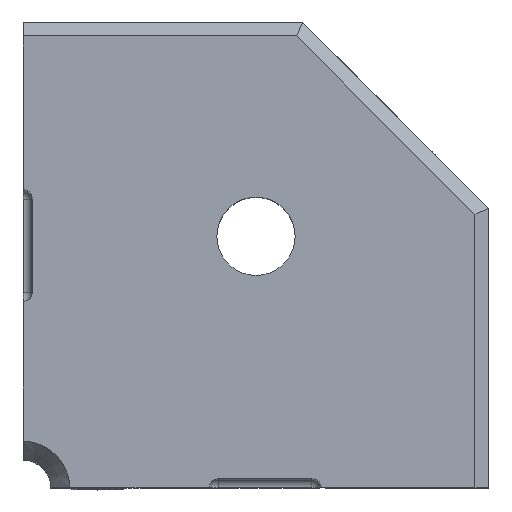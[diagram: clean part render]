
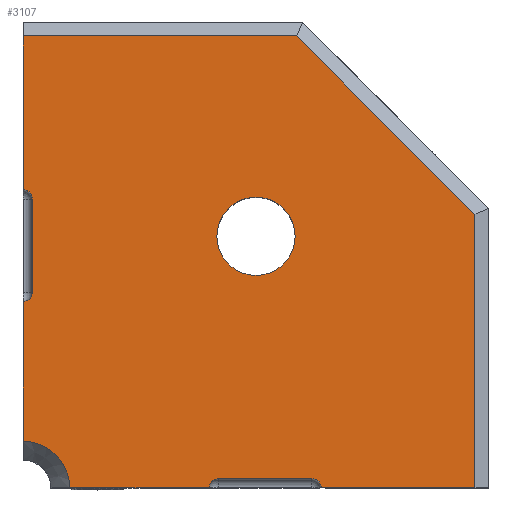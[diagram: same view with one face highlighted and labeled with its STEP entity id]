
A CAD part, top view. The second image highlights one B-rep face of the part: STEP entity #3107.
In plain terms, the highlighted planar face has unit normal (0, 0, 1).
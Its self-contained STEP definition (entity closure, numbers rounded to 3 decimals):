
#89=FACE_BOUND('',#531,.T.);
#125=PLANE('',#3371);
#183=CIRCLE('',#3362,1.);
#184=CIRCLE('',#3365,1.);
#185=CIRCLE('',#3367,1.);
#186=CIRCLE('',#3370,1.);
#187=CIRCLE('',#3372,5.);
#188=CIRCLE('',#3373,4.2);
#349=FACE_OUTER_BOUND('',#530,.T.);
#530=EDGE_LOOP('',(#2516,#2517,#2518,#2519,#2520,#2521,#2522,#2523,#2524,
#2525,#2526,#2527,#2528,#2529));
#531=EDGE_LOOP('',(#2530));
#739=LINE('',#7444,#933);
#744=LINE('',#7458,#938);
#747=LINE('',#7466,#941);
#748=LINE('',#7469,#942);
#749=LINE('',#7471,#943);
#750=LINE('',#7473,#944);
#751=LINE('',#7475,#945);
#752=LINE('',#7477,#946);
#753=LINE('',#7478,#947);
#933=VECTOR('',#3850,10.);
#938=VECTOR('',#3865,10.);
#941=VECTOR('',#3874,10.);
#942=VECTOR('',#3877,10.);
#943=VECTOR('',#3878,10.);
#944=VECTOR('',#3879,10.);
#945=VECTOR('',#3880,10.);
#946=VECTOR('',#3881,10.);
#947=VECTOR('',#3882,10.);
#1461=VERTEX_POINT('',#7437);
#1462=VERTEX_POINT('',#7439);
#1463=VERTEX_POINT('',#7443);
#1464=VERTEX_POINT('',#7447);
#1465=VERTEX_POINT('',#7451);
#1466=VERTEX_POINT('',#7453);
#1467=VERTEX_POINT('',#7457);
#1468=VERTEX_POINT('',#7461);
#1469=VERTEX_POINT('',#7465);
#1470=VERTEX_POINT('',#7467);
#1471=VERTEX_POINT('',#7470);
#1472=VERTEX_POINT('',#7472);
#1473=VERTEX_POINT('',#7474);
#1474=VERTEX_POINT('',#7476);
#1475=VERTEX_POINT('',#7479);
#1857=EDGE_CURVE('',#1462,#1461,#183,.T.);
#1859=EDGE_CURVE('',#1463,#1462,#739,.T.);
#1861=EDGE_CURVE('',#1464,#1463,#184,.T.);
#1864=EDGE_CURVE('',#1466,#1465,#185,.T.);
#1866=EDGE_CURVE('',#1467,#1466,#744,.T.);
#1868=EDGE_CURVE('',#1468,#1467,#186,.T.);
#1870=EDGE_CURVE('',#1461,#1469,#747,.T.);
#1871=EDGE_CURVE('',#1470,#1469,#187,.T.);
#1872=EDGE_CURVE('',#1470,#1468,#748,.T.);
#1873=EDGE_CURVE('',#1465,#1471,#749,.T.);
#1874=EDGE_CURVE('',#1472,#1471,#750,.T.);
#1875=EDGE_CURVE('',#1473,#1472,#751,.T.);
#1876=EDGE_CURVE('',#1474,#1473,#752,.T.);
#1877=EDGE_CURVE('',#1474,#1464,#753,.T.);
#1878=EDGE_CURVE('',#1475,#1475,#188,.T.);
#2516=ORIENTED_EDGE('',*,*,#1861,.T.);
#2517=ORIENTED_EDGE('',*,*,#1859,.T.);
#2518=ORIENTED_EDGE('',*,*,#1857,.T.);
#2519=ORIENTED_EDGE('',*,*,#1870,.T.);
#2520=ORIENTED_EDGE('',*,*,#1871,.F.);
#2521=ORIENTED_EDGE('',*,*,#1872,.T.);
#2522=ORIENTED_EDGE('',*,*,#1868,.T.);
#2523=ORIENTED_EDGE('',*,*,#1866,.T.);
#2524=ORIENTED_EDGE('',*,*,#1864,.T.);
#2525=ORIENTED_EDGE('',*,*,#1873,.T.);
#2526=ORIENTED_EDGE('',*,*,#1874,.F.);
#2527=ORIENTED_EDGE('',*,*,#1875,.F.);
#2528=ORIENTED_EDGE('',*,*,#1876,.F.);
#2529=ORIENTED_EDGE('',*,*,#1877,.T.);
#2530=ORIENTED_EDGE('',*,*,#1878,.T.);
#3107=ADVANCED_FACE('',(#349,#89),#125,.T.);
#3362=AXIS2_PLACEMENT_3D('',#7440,#3845,#3846);
#3365=AXIS2_PLACEMENT_3D('',#7448,#3854,#3855);
#3367=AXIS2_PLACEMENT_3D('',#7454,#3860,#3861);
#3370=AXIS2_PLACEMENT_3D('',#7462,#3869,#3870);
#3371=AXIS2_PLACEMENT_3D('',#7464,#3872,#3873);
#3372=AXIS2_PLACEMENT_3D('',#7468,#3875,#3876);
#3373=AXIS2_PLACEMENT_3D('',#7480,#3883,#3884);
#3845=DIRECTION('center_axis',(0.,0.,-1.));
#3846=DIRECTION('ref_axis',(-1.,0.,0.));
#3850=DIRECTION('',(0.,-1.,0.));
#3854=DIRECTION('center_axis',(0.,0.,-1.));
#3855=DIRECTION('ref_axis',(1.,0.,0.));
#3860=DIRECTION('center_axis',(0.,0.,-1.));
#3861=DIRECTION('ref_axis',(0.,-1.,0.));
#3865=DIRECTION('',(1.,0.,0.));
#3869=DIRECTION('center_axis',(0.,0.,-1.));
#3870=DIRECTION('ref_axis',(0.,1.,0.));
#3872=DIRECTION('center_axis',(0.,0.,1.));
#3873=DIRECTION('ref_axis',(1.,0.,0.));
#3874=DIRECTION('',(0.,-1.,0.));
#3875=DIRECTION('center_axis',(0.,0.,1.));
#3876=DIRECTION('ref_axis',(-1.,0.,0.));
#3877=DIRECTION('',(1.,0.,0.));
#3878=DIRECTION('',(1.,0.,0.));
#3879=DIRECTION('',(0.,-1.,0.));
#3880=DIRECTION('',(0.707,-0.707,0.));
#3881=DIRECTION('',(1.,0.,0.));
#3882=DIRECTION('',(0.,-1.,0.));
#3883=DIRECTION('center_axis',(0.,0.,-1.));
#3884=DIRECTION('ref_axis',(1.,0.,0.));
#7437=CARTESIAN_POINT('',(0.,20.,20.));
#7439=CARTESIAN_POINT('',(1.,21.,20.));
#7440=CARTESIAN_POINT('Origin',(0.,21.,20.));
#7443=CARTESIAN_POINT('',(1.,31.,20.));
#7444=CARTESIAN_POINT('',(1.,15.5,20.));
#7447=CARTESIAN_POINT('',(0.,32.,20.));
#7448=CARTESIAN_POINT('Origin',(0.,31.,20.));
#7451=CARTESIAN_POINT('',(32.,0.,20.));
#7453=CARTESIAN_POINT('',(31.,1.,20.));
#7454=CARTESIAN_POINT('Origin',(31.,0.,20.));
#7457=CARTESIAN_POINT('',(21.,1.,20.));
#7458=CARTESIAN_POINT('',(10.5,1.,20.));
#7461=CARTESIAN_POINT('',(20.,0.,20.));
#7462=CARTESIAN_POINT('Origin',(21.,0.,20.));
#7464=CARTESIAN_POINT('Origin',(0.,0.,
20.));
#7465=CARTESIAN_POINT('',(0.,5.,20.));
#7466=CARTESIAN_POINT('',(0.,0.,20.));
#7467=CARTESIAN_POINT('',(5.,0.,20.));
#7468=CARTESIAN_POINT('Origin',(0.,0.,20.));
#7469=CARTESIAN_POINT('',(0.,0.,20.));
#7470=CARTESIAN_POINT('',(48.5,0.,20.));
#7471=CARTESIAN_POINT('',(0.,0.,20.));
#7472=CARTESIAN_POINT('',(48.5,29.379,20.));
#7473=CARTESIAN_POINT('',(48.5,-25.,20.));
#7474=CARTESIAN_POINT('',(29.379,48.5,20.));
#7475=CARTESIAN_POINT('',(38.939,38.939,20.));
#7476=CARTESIAN_POINT('',(0.,48.5,20.));
#7477=CARTESIAN_POINT('',(25.,48.5,20.));
#7478=CARTESIAN_POINT('',(0.,0.,20.));
#7479=CARTESIAN_POINT('',(20.8,27.,20.));
#7480=CARTESIAN_POINT('Origin',(25.,27.,20.));
